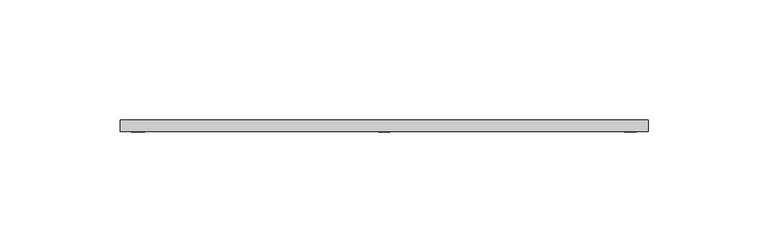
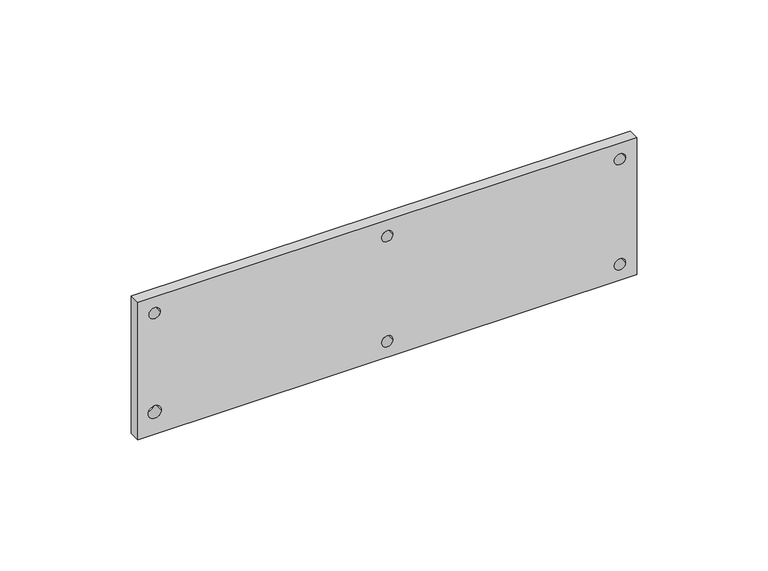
"""IFC4 building model written with IfcOpenShell, lengths in millimetres: valve geometry, PP-R_Holder of wall piece : PP-R Holder of wall piece."""

from ifc_helpers import new_model, si_unit, point, frame, frame_2d, origin, place, context, project, spatial, polyline, circle_curve, trimmed, segment, composite_curve, outline, extrude, source, transform, mapped, element, save


def valve_b5affd85(model_context):
    return source(origin(), model_context, "Body", "SweptSolid", [
        extrude(outline(polyline([(50.0, 121.482913), (50.0, -98.517087), (-14.0, -98.517087), (-14.0, 121.482913), (50.0, 121.482913)]), holes=[composite_curve([segment(trimmed(circle_curve(frame_2d((42.5, -91.017087)), 2.5), [point((42.5, -93.517087))], [point((42.5, -88.517087))], True, "CARTESIAN"), True, "CONTINUOUS"), segment(trimmed(circle_curve(frame_2d((42.5, -91.017087)), 2.5), [point((42.5, -88.517087))], [point((42.5, -93.517087))], True, "CARTESIAN"), True, "CONTINUOUS")], self_intersect=False), composite_curve([segment(trimmed(circle_curve(frame_2d((-3.5918127, -91.017087)), 2.9081873), [point((-3.5918127, -93.9252742))], [point((-3.5918127, -88.1088997))], True, "CARTESIAN"), True, "CONTINUOUS"), segment(trimmed(circle_curve(frame_2d((-3.5918127, -91.017087)), 2.9081873), [point((-3.5918127, -88.1088997))], [point((-3.5918127, -93.9252742))], True, "CARTESIAN"), True, "CONTINUOUS")], self_intersect=False), composite_curve([segment(trimmed(circle_curve(frame_2d((42.5, 11.482913)), 2.5), [point((42.5, 8.982913))], [point((42.5, 13.982913))], True, "CARTESIAN"), True, "CONTINUOUS"), segment(trimmed(circle_curve(frame_2d((42.5, 11.482913)), 2.5), [point((42.5, 13.982913))], [point((42.5, 8.982913))], True, "CARTESIAN"), True, "CONTINUOUS")], self_intersect=False), composite_curve([segment(trimmed(circle_curve(frame_2d((-6.5, 11.482913)), 2.5), [point((-6.5, 8.982913))], [point((-6.5, 13.982913))], True, "CARTESIAN"), True, "CONTINUOUS"), segment(trimmed(circle_curve(frame_2d((-6.5, 11.482913)), 2.5), [point((-6.5, 13.982913))], [point((-6.5, 8.982913))], True, "CARTESIAN"), True, "CONTINUOUS")], self_intersect=False), composite_curve([segment(trimmed(circle_curve(frame_2d((42.5, 113.982913)), 2.5), [point((42.5, 111.482913))], [point((42.5, 116.482913))], True, "CARTESIAN"), True, "CONTINUOUS"), segment(trimmed(circle_curve(frame_2d((42.5, 113.982913)), 2.5), [point((42.5, 116.482913))], [point((42.5, 111.482913))], True, "CARTESIAN"), True, "CONTINUOUS")], self_intersect=False), composite_curve([segment(trimmed(circle_curve(frame_2d((-6.5, 113.982913)), 2.5), [point((-6.5, 111.482913))], [point((-6.5, 116.482913))], True, "CARTESIAN"), True, "CONTINUOUS"), segment(trimmed(circle_curve(frame_2d((-6.5, 113.982913)), 2.5), [point((-6.5, 116.482913))], [point((-6.5, 111.482913))], True, "CARTESIAN"), True, "CONTINUOUS")], self_intersect=False)]), frame((0.0, -5.0, 0.0), z_axis=(0.0, 1.0, 0.0), x_axis=(0.0, 0.0, 1.0)), (0.0, 0.0, 1.0), 5.0),
    ])


if __name__ == "__main__":
    model = new_model("IFC4")
    model_context = context("Model", 3, world=origin())
    ifc_project = project(units=[si_unit("LENGTHUNIT", "METRE", prefix="MILLI")], contexts=[model_context])
    site = spatial("IfcSite", under=ifc_project)
    building = spatial("IfcBuilding", under=site)
    placement = place(None, origin())
    valve_shape = valve_b5affd85(model_context)
    element("IfcValve", 1, ObjectType="PP-R_Holder of wall piece : PP-R Holder of wall piece", at=placement, inside=building, context=model_context, shape_type="MappedRepresentation", body=[
        mapped(valve_shape, transform((0.0, 0.0, 0.0), x_axis=(1.0, 0.0, 0.0), y_axis=(0.0, 1.0, 0.0), z_axis=(0.0, 0.0, 1.0))),
    ])
    save(model, "model.ifc")
